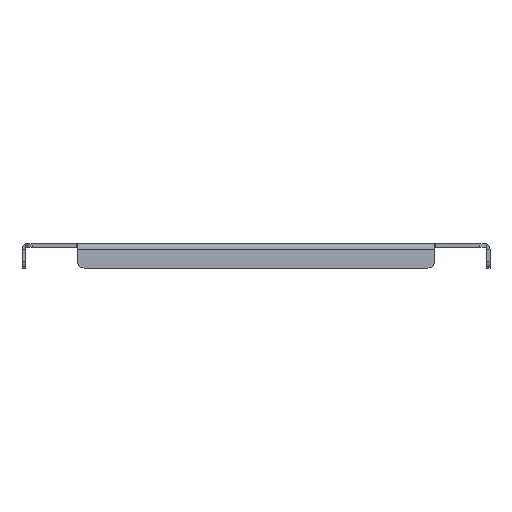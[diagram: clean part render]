
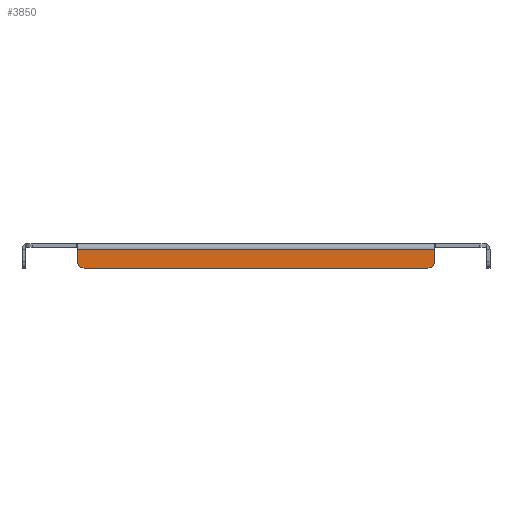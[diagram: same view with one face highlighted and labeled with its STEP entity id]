
A CAD part, front view. The second image highlights one B-rep face of the part: STEP entity #3850.
In plain terms, the highlighted planar face has unit normal (0, -1, 0).
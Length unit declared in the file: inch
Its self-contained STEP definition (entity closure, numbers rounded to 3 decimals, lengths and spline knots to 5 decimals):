
#1409=DIRECTION('',(-1.,0.,0.));
#1410=VECTOR('',#1409,12.9375);
#1411=CARTESIAN_POINT('',(6.46875,-10.46875,-0.1875));
#1412=LINE('',#1411,#1410);
#1523=CARTESIAN_POINT('',(-6.21875,-10.46875,-0.625));
#1524=DIRECTION('',(0.,-1.,0.));
#1525=DIRECTION('',(-1.,0.,0.));
#1526=AXIS2_PLACEMENT_3D('',#1523,#1524,#1525);
#1531=DIRECTION('',(0.,0.,-1.));
#1532=VECTOR('',#1531,0.4375);
#1533=CARTESIAN_POINT('',(-6.46875,-10.46875,-0.1875));
#1534=LINE('',#1533,#1532);
#1538=DIRECTION('',(0.,0.,1.));
#1539=VECTOR('',#1538,0.4375);
#1540=CARTESIAN_POINT('',(6.46875,-10.46875,-0.625));
#1541=LINE('',#1540,#1539);
#1545=CARTESIAN_POINT('',(6.21875,-10.46875,-0.625));
#1546=DIRECTION('',(0.,-1.,0.));
#1547=DIRECTION('',(0.,0.,-1.));
#1548=AXIS2_PLACEMENT_3D('',#1545,#1546,#1547);
#1553=DIRECTION('',(1.,0.,0.));
#1554=VECTOR('',#1553,12.4375);
#1555=CARTESIAN_POINT('',(-6.21875,-10.46875,-0.875));
#1556=LINE('',#1555,#1554);
#1914=CARTESIAN_POINT('',(6.46875,-10.46875,-0.1875));
#1915=CARTESIAN_POINT('',(-6.46875,-10.46875,-0.1875));
#1916=VERTEX_POINT('',#1914);
#1917=VERTEX_POINT('',#1915);
#2202=CARTESIAN_POINT('',(-6.46875,-10.46875,-0.625));
#2203=CARTESIAN_POINT('',(-6.21875,-10.46875,-0.875));
#2204=VERTEX_POINT('',#2202);
#2205=VERTEX_POINT('',#2203);
#2210=CARTESIAN_POINT('',(6.21875,-10.46875,-0.875));
#2211=CARTESIAN_POINT('',(6.46875,-10.46875,-0.625));
#2212=VERTEX_POINT('',#2210);
#2213=VERTEX_POINT('',#2211);
#3834=CARTESIAN_POINT('',(-8.34375,-10.46875,0.));
#3835=DIRECTION('',(0.,-1.,0.));
#3836=DIRECTION('',(-1.,0.,0.));
#3837=AXIS2_PLACEMENT_3D('',#3834,#3835,#3836);
#3838=PLANE('',#3837);
#3839=ORIENTED_EDGE('',*,*,#3824,.F.);
#3840=ORIENTED_EDGE('',*,*,#3814,.F.);
#3841=ORIENTED_EDGE('',*,*,#3624,.F.);
#3843=ORIENTED_EDGE('',*,*,#3842,.F.);
#3845=ORIENTED_EDGE('',*,*,#3844,.F.);
#3847=ORIENTED_EDGE('',*,*,#3846,.F.);
#3848=EDGE_LOOP('',(#3839,#3840,#3841,#3843,#3845,#3847));
#3849=FACE_OUTER_BOUND('',#3848,.F.);
#1527=CIRCLE('',#1526,0.25);
#1549=CIRCLE('',#1548,0.25);
#3624=EDGE_CURVE('',#1916,#1917,#1412,.T.);
#3814=EDGE_CURVE('',#1917,#2204,#1534,.T.);
#3824=EDGE_CURVE('',#2204,#2205,#1527,.T.);
#3842=EDGE_CURVE('',#2213,#1916,#1541,.T.);
#3844=EDGE_CURVE('',#2212,#2213,#1549,.T.);
#3846=EDGE_CURVE('',#2205,#2212,#1556,.T.);
#3850=ADVANCED_FACE('',(#3849),#3838,.T.);
